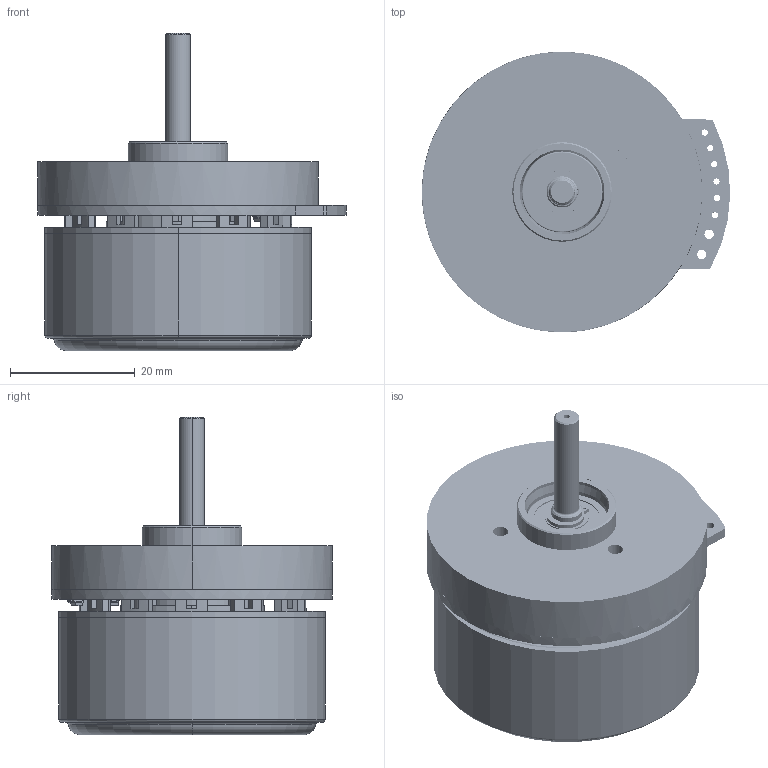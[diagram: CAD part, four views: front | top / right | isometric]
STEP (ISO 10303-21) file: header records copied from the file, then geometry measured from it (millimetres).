
FILE_DESCRIPTION((''),'2;1');
FILE_NAME('3_1_02_045_1269_SW0001','2024-10-15T09:04:33',('yuyang'),(''),'CREO PARAMETRIC BY PTC INC, 2017110','CREO PARAMETRIC BY PTC INC, 2017110','');
FILE_SCHEMA(('CONFIG_CONTROL_DESIGN'));
Products named in the file (1): 3_1_02_045_1269_SW0001
Bounding box: 49.47 x 45 x 50.9 mm (x, y, z)
Volume: 27883.8 mm3; surface area: 26341.6 mm2
Topology: 39 solids, 39 shells, 17163 faces, 45803 edges, 30175 vertices
Faces by surface type: plane 11906, extrusion 3946, cylinder 1035, sphere 166, torus 60, cone 42, bspline 8
Entity records: 637981 total; most frequent: CARTESIAN_POINT 224032, ORIENTED_EDGE 91274, DIRECTION 70332, EDGE_CURVE 45637, VECTOR 39172, LINE 35226, VERTEX_POINT 30175, EDGE_LOOP 18874
